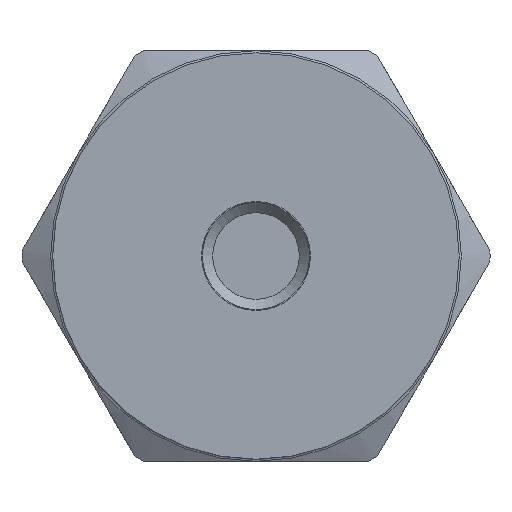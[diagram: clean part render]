
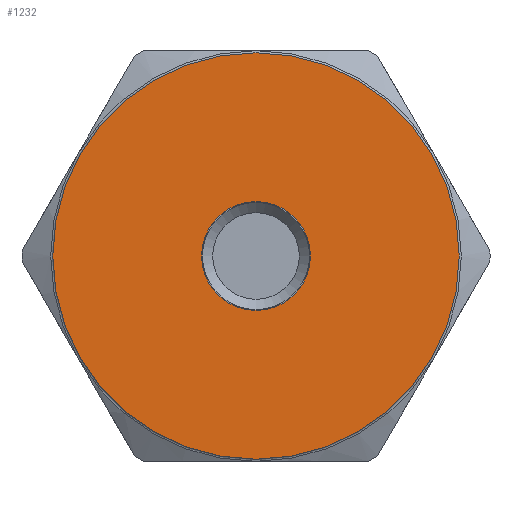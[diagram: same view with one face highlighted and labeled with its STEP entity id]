
A CAD part, front view. The second image highlights one B-rep face of the part: STEP entity #1232.
In plain terms, the highlighted planar face has unit normal (0, -1, 0).
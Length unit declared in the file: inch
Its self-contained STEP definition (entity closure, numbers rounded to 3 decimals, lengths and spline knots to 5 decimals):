
#74=FACE_BOUND('',#288,.T.);
#95=PLANE('',#1379);
#213=FACE_OUTER_BOUND('',#287,.T.);
#287=EDGE_LOOP('',(#1007,#1008));
#288=EDGE_LOOP('',(#1009,#1010));
#441=CIRCLE('',#1317,0.495);
#442=CIRCLE('',#1318,0.495);
#471=CIRCLE('',#1370,0.1325);
#472=CIRCLE('',#1371,0.1325);
#544=VERTEX_POINT('',#1916);
#545=VERTEX_POINT('',#1917);
#585=VERTEX_POINT('',#2092);
#586=VERTEX_POINT('',#2093);
#668=EDGE_CURVE('',#544,#545,#441,.T.);
#669=EDGE_CURVE('',#545,#544,#442,.T.);
#732=EDGE_CURVE('',#585,#586,#471,.T.);
#733=EDGE_CURVE('',#586,#585,#472,.T.);
#1007=ORIENTED_EDGE('',*,*,#668,.T.);
#1008=ORIENTED_EDGE('',*,*,#669,.T.);
#1009=ORIENTED_EDGE('',*,*,#732,.T.);
#1010=ORIENTED_EDGE('',*,*,#733,.T.);
#1232=ADVANCED_FACE('',(#213,#74),#95,.T.);
#1317=AXIS2_PLACEMENT_3D('',#1918,#1532,#1533);
#1318=AXIS2_PLACEMENT_3D('',#1919,#1534,#1535);
#1370=AXIS2_PLACEMENT_3D('',#2094,#1648,#1649);
#1371=AXIS2_PLACEMENT_3D('',#2095,#1650,#1651);
#1379=AXIS2_PLACEMENT_3D('',#2109,#1672,#1673);
#1532=DIRECTION('center_axis',(0.,-1.,0.));
#1533=DIRECTION('ref_axis',(1.,0.,0.));
#1534=DIRECTION('center_axis',(0.,-1.,0.));
#1535=DIRECTION('ref_axis',(1.,0.,0.));
#1648=DIRECTION('center_axis',(0.,1.,0.));
#1649=DIRECTION('ref_axis',(1.,0.,0.));
#1650=DIRECTION('center_axis',(0.,1.,0.));
#1651=DIRECTION('ref_axis',(1.,0.,0.));
#1672=DIRECTION('center_axis',(0.,-1.,0.));
#1673=DIRECTION('ref_axis',(0.,0.,-1.));
#1916=CARTESIAN_POINT('',(0.495,-2.2485,0.));
#1917=CARTESIAN_POINT('',(-0.495,-2.2485,0.));
#1918=CARTESIAN_POINT('Origin',(0.,-2.2485,0.));
#1919=CARTESIAN_POINT('Origin',(0.,-2.2485,0.));
#2092=CARTESIAN_POINT('',(0.1325,-2.2485,0.));
#2093=CARTESIAN_POINT('',(-0.1325,-2.2485,0.));
#2094=CARTESIAN_POINT('Origin',(0.,-2.2485,0.));
#2095=CARTESIAN_POINT('Origin',(0.,-2.2485,0.));
#2109=CARTESIAN_POINT('Origin',(0.2475,-2.2485,0.));
